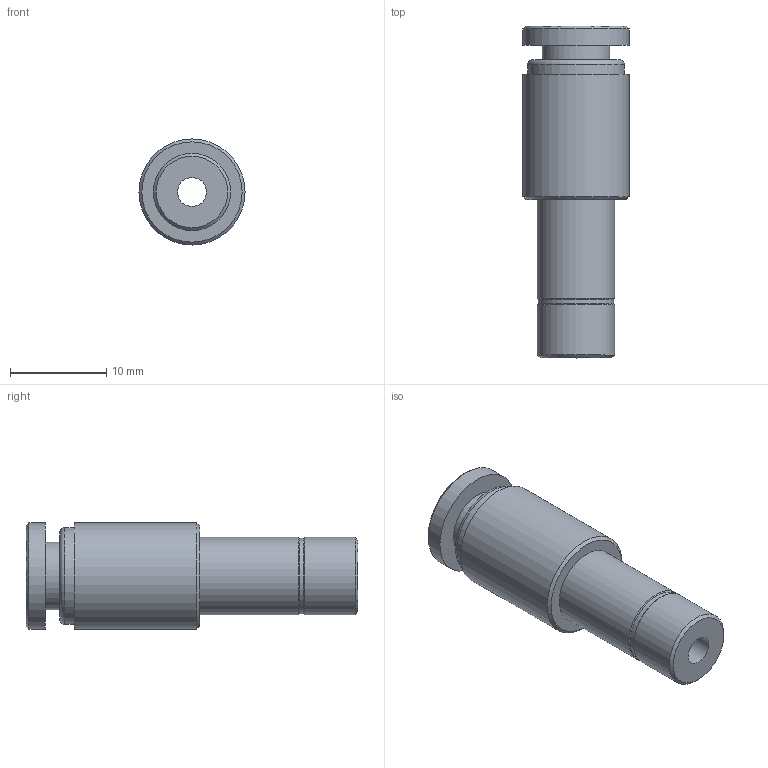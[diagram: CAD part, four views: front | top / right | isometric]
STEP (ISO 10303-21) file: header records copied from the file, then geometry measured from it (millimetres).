
FILE_DESCRIPTION(/* description */ (''),/* implementation_level */ '2;1');
FILE_NAME(/* name */ 'LXH66 0804 00.stp',/* time_stamp */ '2026-04-19T15:14:12+02:00',/* author */ ('freju'),/* organization */ (''),/* preprocessor_version */ 'ST-DEVELOPER v20.1',/* originating_system */ 'Autodesk Inventor 2026',/* authorisation */ '');
FILE_SCHEMA (('AUTOMOTIVE_DESIGN { 1 0 10303 214 3 1 1 }'));
Length unit declared in the file: millimetre
Products named in the file (1): LXH66 0804 00
Bounding box: 11 x 34.4 x 11 mm (x, y, z)
Volume: 2086.8 mm3; surface area: 1652.8 mm2
Topology: 1 solids, 1 shells, 22 faces, 45 edges, 30 vertices
Faces by surface type: cylinder 9, plane 7, torus 3, cone 3
Full cylindrical faces by diameter (mm): 3 x1, 4 x1, 7 x1, 7.8 x1, 8 x2, 10 x1, 11 x2
Entity records: 649 total; most frequent: DIRECTION 124, CARTESIAN_POINT 98, ORIENTED_EDGE 90, AXIS2_PLACEMENT_3D 56, EDGE_CURVE 45, CIRCLE 33, VERTEX_POINT 30, EDGE_LOOP 29
